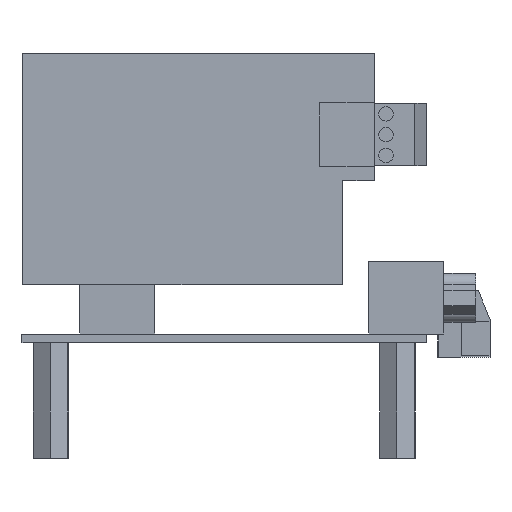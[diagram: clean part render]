
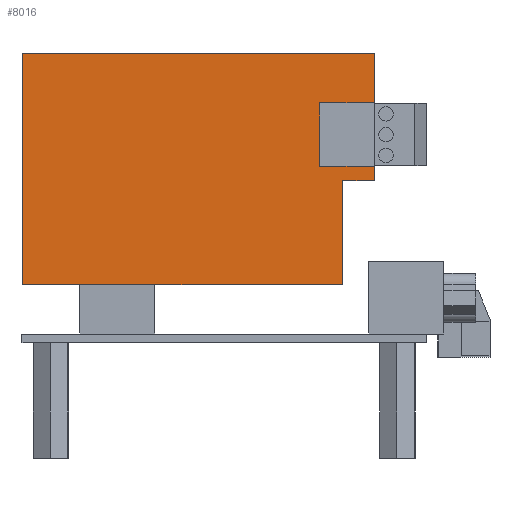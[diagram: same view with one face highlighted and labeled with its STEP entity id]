
A CAD part, left-side view. The second image highlights one B-rep face of the part: STEP entity #8016.
In plain terms, the highlighted planar face has unit normal (-1, 0, 0).
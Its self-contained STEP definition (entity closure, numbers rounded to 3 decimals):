
#376=FACE_OUTER_BOUND('',#835,.T.);
#835=EDGE_LOOP('',(#5782,#5783,#5784,#5785,#5786,#5787,#5788,#5789,#5790,
#5791,#5792,#5793));
#1586=LINE('',#11648,#2639);
#1590=LINE('',#11655,#2643);
#1593=LINE('',#11661,#2646);
#1595=LINE('',#11666,#2648);
#1596=LINE('',#11668,#2649);
#1597=LINE('',#11670,#2650);
#1598=LINE('',#11672,#2651);
#1599=LINE('',#11674,#2652);
#1600=LINE('',#11676,#2653);
#1601=LINE('',#11678,#2654);
#1602=LINE('',#11680,#2655);
#1603=LINE('',#11681,#2656);
#2639=VECTOR('',#9416,9.5);
#2643=VECTOR('',#9422,11.);
#2646=VECTOR('',#9427,9.5);
#2648=VECTOR('',#9433,8.5);
#2649=VECTOR('',#9434,61.);
#2650=VECTOR('',#9435,40.);
#2651=VECTOR('',#9436,10.);
#2652=VECTOR('',#9437,13.);
#2653=VECTOR('',#9438,32.5);
#2654=VECTOR('',#9439,18.);
#2655=VECTOR('',#9440,5.5);
#2656=VECTOR('',#9441,2.5);
#3599=VERTEX_POINT('',#11645);
#3600=VERTEX_POINT('',#11647);
#3602=VERTEX_POINT('',#11653);
#3604=VERTEX_POINT('',#11659);
#3605=VERTEX_POINT('',#11665);
#3606=VERTEX_POINT('',#11667);
#3607=VERTEX_POINT('',#11669);
#3608=VERTEX_POINT('',#11671);
#3609=VERTEX_POINT('',#11673);
#3610=VERTEX_POINT('',#11675);
#3611=VERTEX_POINT('',#11677);
#3612=VERTEX_POINT('',#11679);
#4446=EDGE_CURVE('',#3600,#3599,#1586,.T.);
#4450=EDGE_CURVE('',#3599,#3602,#1590,.T.);
#4453=EDGE_CURVE('',#3602,#3604,#1593,.T.);
#4455=EDGE_CURVE('',#3604,#3605,#1595,.T.);
#4456=EDGE_CURVE('',#3605,#3606,#1596,.T.);
#4457=EDGE_CURVE('',#3607,#3606,#1597,.T.);
#4458=EDGE_CURVE('',#3607,#3608,#1598,.T.);
#4459=EDGE_CURVE('',#3609,#3608,#1599,.T.);
#4460=EDGE_CURVE('',#3609,#3610,#1600,.T.);
#4461=EDGE_CURVE('',#3610,#3611,#1601,.T.);
#4462=EDGE_CURVE('',#3611,#3612,#1602,.T.);
#4463=EDGE_CURVE('',#3612,#3600,#1603,.T.);
#5782=ORIENTED_EDGE('',*,*,#4446,.T.);
#5783=ORIENTED_EDGE('',*,*,#4450,.T.);
#5784=ORIENTED_EDGE('',*,*,#4453,.T.);
#5785=ORIENTED_EDGE('',*,*,#4455,.T.);
#5786=ORIENTED_EDGE('',*,*,#4456,.T.);
#5787=ORIENTED_EDGE('',*,*,#4457,.F.);
#5788=ORIENTED_EDGE('',*,*,#4458,.T.);
#5789=ORIENTED_EDGE('',*,*,#4459,.F.);
#5790=ORIENTED_EDGE('',*,*,#4460,.T.);
#5791=ORIENTED_EDGE('',*,*,#4461,.T.);
#5792=ORIENTED_EDGE('',*,*,#4462,.T.);
#5793=ORIENTED_EDGE('',*,*,#4463,.T.);
#7597=PLANE('',#8480);
#8016=ADVANCED_FACE('',(#376),#7597,.T.);
#8480=AXIS2_PLACEMENT_3D('',#11664,#9431,#9432);
#9416=DIRECTION('',(0.,1.,0.));
#9422=DIRECTION('',(0.,0.,1.));
#9427=DIRECTION('',(0.,-1.,0.));
#9431=DIRECTION('center_axis',(-1.,0.,0.));
#9432=DIRECTION('ref_axis',(0.,0.,1.));
#9433=DIRECTION('',(0.,0.,1.));
#9434=DIRECTION('',(0.,1.,0.));
#9435=DIRECTION('',(0.,0.,1.));
#9436=DIRECTION('',(0.,-1.,0.));
#9437=DIRECTION('',(0.,1.,0.));
#9438=DIRECTION('',(0.,-1.,0.));
#9439=DIRECTION('',(0.,0.,1.));
#9440=DIRECTION('',(0.,-1.,0.));
#9441=DIRECTION('',(0.,0.,1.));
#11645=CARTESIAN_POINT('',(-7.103,6.431,30.5));
#11647=CARTESIAN_POINT('',(-7.103,-3.069,30.5));
#11648=CARTESIAN_POINT('',(-7.103,22.431,30.5));
#11653=CARTESIAN_POINT('',(-7.103,6.431,41.5));
#11655=CARTESIAN_POINT('',(-7.103,6.431,20.25));
#11659=CARTESIAN_POINT('',(-7.103,-3.069,41.5));
#11661=CARTESIAN_POINT('',(-7.103,27.181,41.5));
#11664=CARTESIAN_POINT('Origin',(-7.103,47.931,10.));
#11665=CARTESIAN_POINT('',(-7.103,-3.069,50.));
#11666=CARTESIAN_POINT('',(-7.103,-3.069,10.));
#11667=CARTESIAN_POINT('',(-7.103,57.931,50.));
#11668=CARTESIAN_POINT('',(-7.103,57.931,50.));
#11669=CARTESIAN_POINT('',(-7.103,57.931,10.));
#11670=CARTESIAN_POINT('',(-7.103,57.931,10.));
#11671=CARTESIAN_POINT('',(-7.103,47.931,10.));
#11672=CARTESIAN_POINT('',(-7.103,57.931,10.));
#11673=CARTESIAN_POINT('',(-7.103,34.931,10.));
#11674=CARTESIAN_POINT('',(-7.103,44.681,10.));
#11675=CARTESIAN_POINT('',(-7.103,2.431,10.));
#11676=CARTESIAN_POINT('',(-7.103,57.931,10.));
#11677=CARTESIAN_POINT('',(-7.103,2.431,28.));
#11678=CARTESIAN_POINT('',(-7.103,2.431,19.));
#11679=CARTESIAN_POINT('',(-7.103,-3.069,28.));
#11680=CARTESIAN_POINT('',(-7.103,22.431,28.));
#11681=CARTESIAN_POINT('',(-7.103,-3.069,10.));
